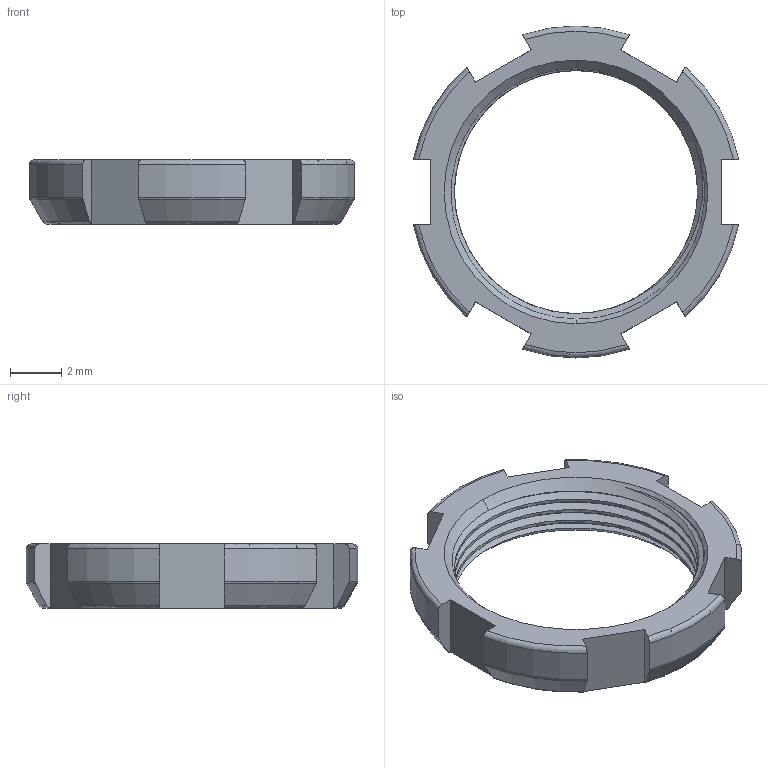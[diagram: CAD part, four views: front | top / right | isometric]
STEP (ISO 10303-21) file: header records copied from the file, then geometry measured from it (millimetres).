
FILE_DESCRIPTION((''),'2;1');
FILE_NAME('00058073','2020-10-30T08:58:48',('EUnterhaslberger'),(''),'CREO PARAMETRIC BY PTC INC, 2018300','CREO PARAMETRIC BY PTC INC, 2018300','');
FILE_SCHEMA(('AP242_MANAGED_MODEL_BASED_3D_ENGINEERING_MIM_LF { 1 0 10303 442 1 1 4 }'));
Length unit declared in the file: millimetre
Products named in the file (1): 00058073
Bounding box: 12.66 x 12.9 x 2.5 mm (x, y, z)
Volume: 103.8 mm3; surface area: 299 mm2
Topology: 1 solids, 1 shells, 67 faces, 193 edges, 128 vertices
Faces by surface type: plane 20, torus 18, cylinder 13, cone 10, bspline 6
Entity records: 4290 total; most frequent: CARTESIAN_POINT 2002, ORIENTED_EDGE 386, DIRECTION 271, PRESENTATION_STYLE_ASSIGNMENT 194, STYLED_ITEM 194, CURVE_STYLE 193, EDGE_CURVE 193, VERTEX_POINT 128
